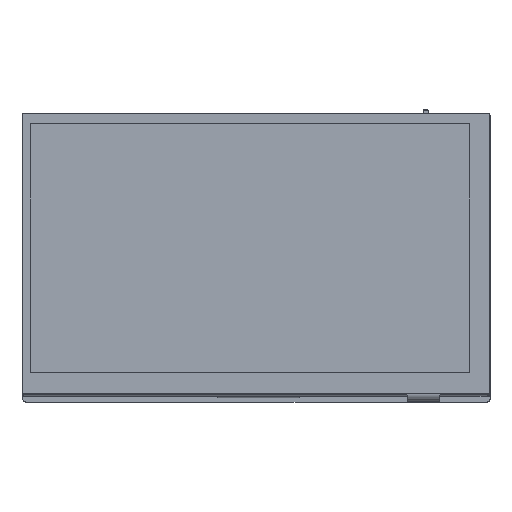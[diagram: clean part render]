
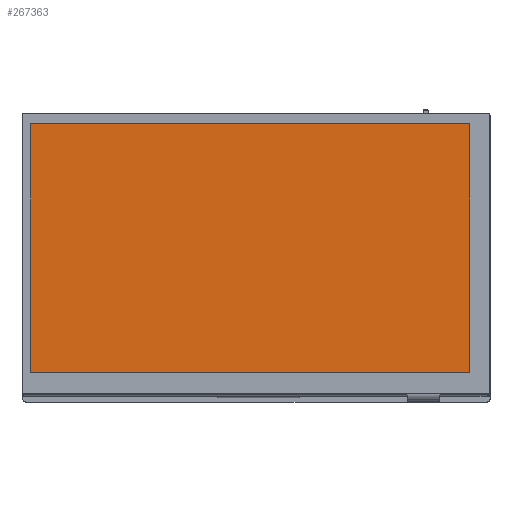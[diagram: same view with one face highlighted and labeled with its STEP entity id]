
A CAD part, top view. The second image highlights one B-rep face of the part: STEP entity #267363.
In plain terms, the highlighted planar face has unit normal (0, 0, 1).
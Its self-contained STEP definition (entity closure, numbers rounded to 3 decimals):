
#13837 = CARTESIAN_POINT ( 'NONE',  ( 3.13, 0., 1.7 ) ) ;
#15869 = LINE ( 'NONE', #130445, #246284 ) ;
#38015 = VERTEX_POINT ( 'NONE', #63108 ) ;
#38524 = ORIENTED_EDGE ( 'NONE', *, *, #240331, .F. ) ;
#39452 = VERTEX_POINT ( 'NONE', #176932 ) ;
#41772 = FACE_OUTER_BOUND ( 'NONE', #148473, .T. ) ;
#45905 = VERTEX_POINT ( 'NONE', #98476 ) ;
#53438 = VERTEX_POINT ( 'NONE', #197188 ) ;
#53858 = DIRECTION ( 'NONE',  ( 0., -1., 0. ) ) ;
#63108 = CARTESIAN_POINT ( 'NONE',  ( 3.13, 96.19, 1.7 ) ) ;
#63959 = CARTESIAN_POINT ( 'NONE',  ( 0., 8.49, 1.7 ) ) ;
#68641 = ORIENTED_EDGE ( 'NONE', *, *, #266165, .F. ) ;
#69437 = ORIENTED_EDGE ( 'NONE', *, *, #176670, .F. ) ;
#80775 = AXIS2_PLACEMENT_3D ( 'NONE', #156402, #246702, #298506 ) ;
#98476 = CARTESIAN_POINT ( 'NONE',  ( 3.13, 8.49, 1.7 ) ) ;
#128948 = EDGE_CURVE ( 'NONE', #53438, #45905, #223102, .T. ) ;
#130445 = CARTESIAN_POINT ( 'NONE',  ( 0., 96.19, 1.7 ) ) ;
#134980 = PLANE ( 'NONE',  #80775 ) ;
#140502 = VECTOR ( 'NONE', #158659, 1000. ) ;
#148037 = VECTOR ( 'NONE', #224745, 1000. ) ;
#148473 = EDGE_LOOP ( 'NONE', ( #69437, #166786, #68641, #38524 ) ) ;
#156402 = CARTESIAN_POINT ( 'NONE',  ( 0., 0., 1.7 ) ) ;
#158659 = DIRECTION ( 'NONE',  ( -1., 0., 0. ) ) ;
#166786 = ORIENTED_EDGE ( 'NONE', *, *, #128948, .F. ) ;
#169937 = LINE ( 'NONE', #263273, #217009 ) ;
#176670 = EDGE_CURVE ( 'NONE', #45905, #38015, #223218, .T. ) ;
#176932 = CARTESIAN_POINT ( 'NONE',  ( 158.13, 96.19, 1.7 ) ) ;
#180807 = DIRECTION ( 'NONE',  ( 1., 0., 0. ) ) ;
#197188 = CARTESIAN_POINT ( 'NONE',  ( 158.13, 8.49, 1.7 ) ) ;
#217009 = VECTOR ( 'NONE', #53858, 1000. ) ;
#223102 = LINE ( 'NONE', #63959, #140502 ) ;
#223218 = LINE ( 'NONE', #13837, #148037 ) ;
#224745 = DIRECTION ( 'NONE',  ( 0., 1., 0. ) ) ;
#240331 = EDGE_CURVE ( 'NONE', #38015, #39452, #15869, .T. ) ;
#246284 = VECTOR ( 'NONE', #180807, 1000. ) ;
#246702 = DIRECTION ( 'NONE',  ( 0., 0., 1. ) ) ;
#263273 = CARTESIAN_POINT ( 'NONE',  ( 158.13, 0., 1.7 ) ) ;
#266165 = EDGE_CURVE ( 'NONE', #39452, #53438, #169937, .T. ) ;
#267363 = ADVANCED_FACE ( 'NONE', ( #41772 ), #134980, .T. ) ;
#298506 = DIRECTION ( 'NONE',  ( 1., 0., 0. ) ) ;
